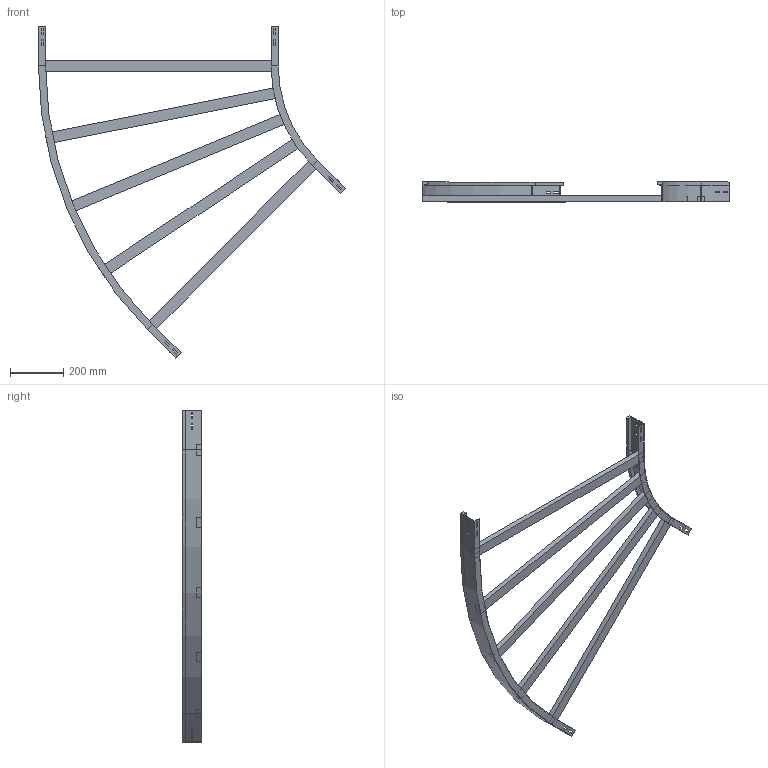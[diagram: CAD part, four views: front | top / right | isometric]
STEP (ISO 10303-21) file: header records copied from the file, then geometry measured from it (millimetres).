
FILE_DESCRIPTION (( 'STEP AP214' ), '1' );
FILE_NAME ('11B5C900.step', '2025-02-21T15:15:46', ( '' ), ( '' ), 'SwSTEP 2.0', 'SolidWorks 2023', '' );
FILE_SCHEMA (( 'AUTOMOTIVE_DESIGN' ));
Length unit declared in the file: millimetre
Products named in the file (4): TRAVERSINO_900; 11B5C900; A2_LONGH.ESTERNO 45°_H75_R500+900; A2_LONGH.INTERNO 45°_H75_R500
Assembly tree (7 placements, depth 2):
  11B5C900
    A2_LONGH.INTERNO 45°_H75_R500
    A2_LONGH.ESTERNO 45°_H75_R500+900
    TRAVERSINO_900  x5
Bounding box: 1152.51 x 75 x 1246.02 mm (x, y, z)
Volume: 4444036.6 mm3; surface area: 1042448.5 mm2
Topology: 7 solids, 7 shells, 146 faces, 364 edges, 232 vertices
Faces by surface type: plane 138, cylinder 8
Entity records: 3837 total; most frequent: CARTESIAN_POINT 648, ORIENTED_EDGE 632, DIRECTION 596, EDGE_CURVE 316, VECTOR 300, LINE 300, VERTEX_POINT 200, EDGE_LOOP 154
